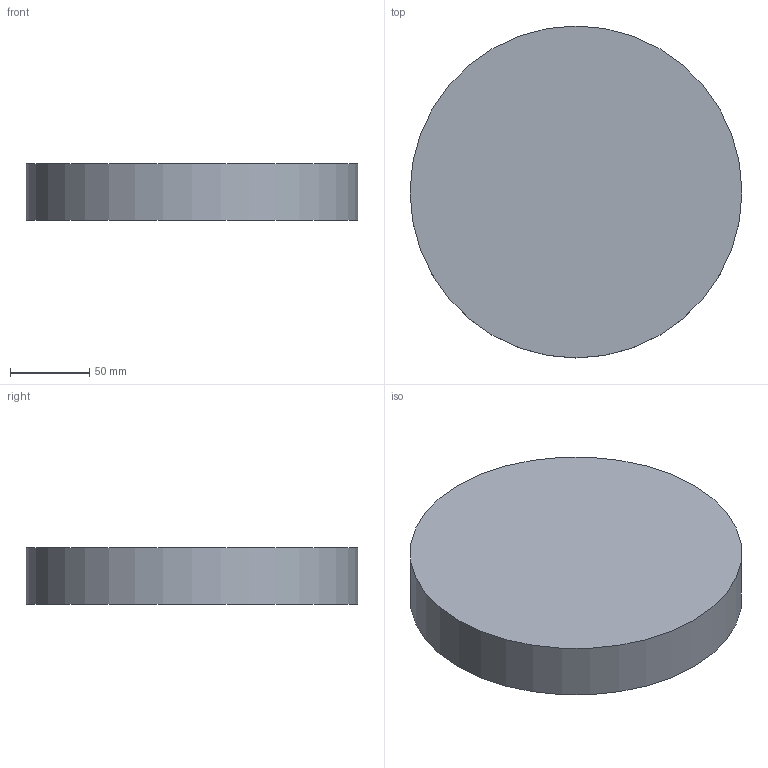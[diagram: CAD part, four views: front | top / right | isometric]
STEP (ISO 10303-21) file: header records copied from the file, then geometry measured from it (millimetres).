
FILE_DESCRIPTION(('Open CASCADE Model'),'2;1');
FILE_NAME('Open CASCADE Shape Model','2026-10-04T01:02:27',('Author'),( 'Open CASCADE'),'Open CASCADE STEP processor 8.0','Open CASCADE 8.0' ,'Unknown');
FILE_SCHEMA(('AUTOMOTIVE_DESIGN { 1 0 10303 214 1 1 1 1 }'));
Length unit declared in the file: millimetre
Products named in the file (1): Open CASCADE STEP translator 8.0 94
Bounding box: 210 x 210 x 36 mm (x, y, z)
Volume: 1246898.1 mm3; surface area: 93022.6 mm2
Topology: 1 solids, 1 shells, 3 faces, 3 edges, 2 vertices
Faces by surface type: plane 2, cylinder 1
Full cylindrical faces by diameter (mm): 210 x1
Entity records: 108 total; most frequent: DIRECTION 19, CARTESIAN_POINT 15, AXIS2_PLACEMENT_3D 6, ORIENTED_EDGE 6, PCURVE 6, DEFINITIONAL_REPRESENTATION 6, LINE 5, VECTOR 5
